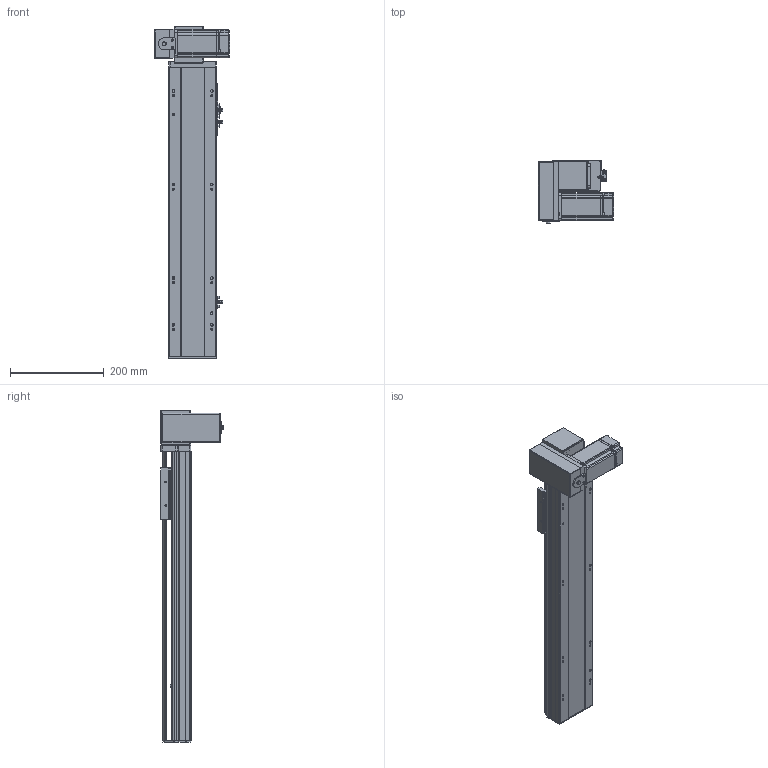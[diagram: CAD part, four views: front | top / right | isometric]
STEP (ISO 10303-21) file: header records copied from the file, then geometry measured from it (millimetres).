
FILE_DESCRIPTION (( 'STEP AP214' ), '1' );
FILE_NAME ('TPT10-L32-400-LD-T10-C4.STEP', '2023-03-02T10:13:20', ( '' ), ( '' ), 'SwSTEP 2.0', 'SolidWorks 2020', '' );
FILE_SCHEMA (( 'AUTOMOTIVE_DESIGN' ));
Length unit declared in the file: millimetre
Products named in the file (12): 葩璃 侂狟400W^TPT10-L32-LD-T10-C4; 葩璃 pm-t65-672^TPT10-L32-LD-T10-C4; hex nuts, style 1-grades ab gb_GB_FASTENER_NUT_SNAB1 M3-N; 葩璃 TPT10-L-002 奻裔MZ-102A-02^TPT10-L32-LD-T10-C4; 葩璃 侂狟100W^TPT10-L32-LD-T10-C4; TPT10-L32-400-LD-T10-C4; hexagon head bolts-full thread gb_GB_FASTENER_BOLT_STBAB A M5X16-N; 葩璃 TPT10-L-009 萇儂啣^TPT10-L32-LD-T10-C4_100W; 葩璃 TPT10-L-007 々湍釱MZ-169x88^TPT10-L32-LD-T10-C4_L; 葩璃 TPT10-L-001 菁釱MZ-102A-01^TPT10-L32-LD-T10-C4; 葩璃 TPT10-L-005 賑釱MZ-102A-03^TPT10-L32-LD-T10-C4; hexagon socket head cap screws gb_GB_FASTENER_SCREWS_HSHCS M3X6-N
Assembly tree (23 placements, depth 2):
  TPT10-L32-400-LD-T10-C4
    葩璃 TPT10-L-001 菁釱MZ-102A-01^TPT10-L32-LD-T10-C4
    葩璃 TPT10-L-002 奻裔MZ-102A-02^TPT10-L32-LD-T10-C4
    葩璃 TPT10-L-007 々湍釱MZ-169x88^TPT10-L32-LD-T10-C4_L
    葩璃 TPT10-L-005 賑釱MZ-102A-03^TPT10-L32-LD-T10-C4
    葩璃 TPT10-L-009 萇儂啣^TPT10-L32-LD-T10-C4_100W
    葩璃 pm-t65-672^TPT10-L32-LD-T10-C4  x3
    葩璃 侂狟100W^TPT10-L32-LD-T10-C4
    葩璃 侂狟400W^TPT10-L32-LD-T10-C4
    hexagon head bolts-full thread gb_GB_FASTENER_BOLT_STBAB A M5X16-N
    hexagon socket head cap screws gb_GB_FASTENER_SCREWS_HSHCS M3X6-N  x6
    hex nuts, style 1-grades ab gb_GB_FASTENER_NUT_SNAB1 M3-N  x6
Bounding box: 160.5 x 134.65 x 710 mm (x, y, z)
Volume: 2770252.4 mm3; surface area: 579745.6 mm2
Topology: 31 solids, 31 shells, 1873 faces, 4895 edges, 3133 vertices
Faces by surface type: plane 1038, cylinder 599, cone 190, bspline 34, torus 12
Entity records: 46937 total; most frequent: CARTESIAN_POINT 9192, DIRECTION 7686, ORIENTED_EDGE 7422, EDGE_CURVE 3711, AXIS2_PLACEMENT_3D 2692, VERTEX_POINT 2424, VECTOR 2302, LINE 2302
